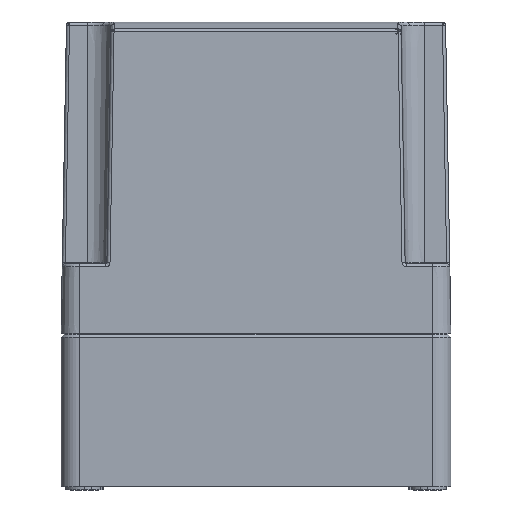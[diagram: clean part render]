
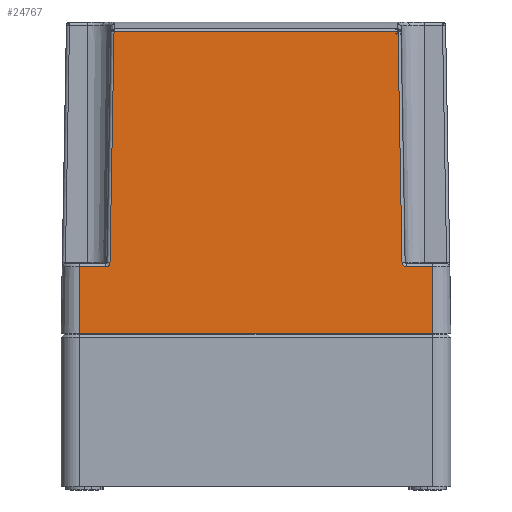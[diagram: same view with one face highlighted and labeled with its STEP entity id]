
A CAD part, left-side view. The second image highlights one B-rep face of the part: STEP entity #24767.
In plain terms, the highlighted planar face has unit normal (-1, 0, 0.018).
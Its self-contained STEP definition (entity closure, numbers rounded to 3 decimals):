
#454 = VECTOR ( 'NONE', #5387, 1000. ) ;
#1398 = CARTESIAN_POINT ( 'NONE',  ( -87.124, -47.924, 21.517 ) ) ;
#1662 = CARTESIAN_POINT ( 'NONE',  ( -87.112, -46.934, 22.227 ) ) ;
#2188 = VERTEX_POINT ( 'NONE', #36338 ) ;
#3864 = VERTEX_POINT ( 'NONE', #28158 ) ;
#5387 = DIRECTION ( 'NONE',  ( 0.017, 0., 1. ) ) ;
#7403 = CARTESIAN_POINT ( 'NONE',  ( -87.124, -48.095, 21.517 ) ) ;
#7424 = VERTEX_POINT ( 'NONE', #68740 ) ;
#7906 = CARTESIAN_POINT ( 'NONE',  ( -87.105, -46.798, 22.624 ) ) ;
#8076 = VECTOR ( 'NONE', #69906, 1000. ) ;
#8092 = ORIENTED_EDGE ( 'NONE', *, *, #55341, .T. ) ;
#9036 = CARTESIAN_POINT ( 'NONE',  ( -87.105, 46.798, 22.624 ) ) ;
#9073 = B_SPLINE_CURVE_WITH_KNOTS ( 'NONE', 3,
 ( #77781, #9036, #53036, #15283, #59276, #21640, #65544, #27960, #71821, #34304 ),
 .UNSPECIFIED., .F., .F.,
 ( 4, 2, 2, 2, 4 ),
 ( 0., 0.25, 0.5, 0.75, 1. ),
 .UNSPECIFIED. ) ;
#9119 = CARTESIAN_POINT ( 'NONE',  ( -87.102, -46.795, 22.795 ) ) ;
#9905 = VERTEX_POINT ( 'NONE', #37571 ) ;
#10601 = VECTOR ( 'NONE', #67234, 1000. ) ;
#15283 = CARTESIAN_POINT ( 'NONE',  ( -87.113, 46.968, 22.147 ) ) ;
#18457 = LINE ( 'NONE', #73230, #10601 ) ;
#18770 = ORIENTED_EDGE ( 'NONE', *, *, #55593, .T. ) ;
#19959 = VERTEX_POINT ( 'NONE', #63066 ) ;
#20093 = AXIS2_PLACEMENT_3D ( 'NONE', #76888, #78515, #41135 ) ;
#20435 = ORIENTED_EDGE ( 'NONE', *, *, #41371, .F. ) ;
#20956 = VECTOR ( 'NONE', #30054, 1000. ) ;
#21239 = CARTESIAN_POINT ( 'NONE',  ( -8797.577, -56.5, -499000. ) ) ;
#21640 = CARTESIAN_POINT ( 'NONE',  ( -87.12, 47.303, 21.772 ) ) ;
#22928 = VECTOR ( 'NONE', #77651, 1000. ) ;
#23047 = ORIENTED_EDGE ( 'NONE', *, *, #53450, .F. ) ;
#24767 = ADVANCED_FACE ( 'NONE', ( #52103 ), #34795, .T. ) ;
#24824 = CARTESIAN_POINT ( 'NONE',  ( -85.81, 50.527, 96.847 ) ) ;
#26472 = CARTESIAN_POINT ( 'NONE',  ( -87.124, -66.364, 21.517 ) ) ;
#26561 = CARTESIAN_POINT ( 'NONE',  ( -87.122, -47.443, 21.68 ) ) ;
#27960 = CARTESIAN_POINT ( 'NONE',  ( -87.124, 47.759, 21.55 ) ) ;
#28145 = CARTESIAN_POINT ( 'NONE',  ( -87.102, 46.795, 22.795 ) ) ;
#28158 = CARTESIAN_POINT ( 'NONE',  ( -85.81, 45.502, 96.847 ) ) ;
#28184 = VERTEX_POINT ( 'NONE', #28145 ) ;
#29206 = VECTOR ( 'NONE', #51816, 1000. ) ;
#29988 = ORIENTED_EDGE ( 'NONE', *, *, #54141, .T. ) ;
#30054 = DIRECTION ( 'NONE',  ( -0.017, 0.017, -1. ) ) ;
#32069 = VERTEX_POINT ( 'NONE', #38814 ) ;
#32739 = LINE ( 'NONE', #24824, #80689 ) ;
#32897 = CARTESIAN_POINT ( 'NONE',  ( -87.117, -47.123, 21.949 ) ) ;
#33780 = LINE ( 'NONE', #80380, #454 ) ;
#34304 = CARTESIAN_POINT ( 'NONE',  ( -87.124, 48.095, 21.517 ) ) ;
#34795 = PLANE ( 'NONE',  #20093 ) ;
#36338 = CARTESIAN_POINT ( 'NONE',  ( -87.124, -56.5, 21.517 ) ) ;
#37571 = CARTESIAN_POINT ( 'NONE',  ( -85.81, -45.502, 96.847 ) ) ;
#38701 = CARTESIAN_POINT ( 'NONE',  ( -87.5, -56.5, 0. ) ) ;
#38709 = CARTESIAN_POINT ( 'NONE',  ( -87.124, -66.364, 21.517 ) ) ;
#38724 = CARTESIAN_POINT ( 'NONE',  ( -87.102, -46.795, 22.795 ) ) ;
#38814 = CARTESIAN_POINT ( 'NONE',  ( -87.124, 48.095, 21.517 ) ) ;
#39229 = CARTESIAN_POINT ( 'NONE',  ( -87.113, -46.975, 22.152 ) ) ;
#39533 = LINE ( 'NONE', #38709, #8076 ) ;
#41135 = DIRECTION ( 'NONE',  ( 0.017, 0., 1. ) ) ;
#41371 = EDGE_CURVE ( 'NONE', #73039, #7424, #18457, .T. ) ;
#42773 = CARTESIAN_POINT ( 'NONE',  ( -85.81, 45.502, 96.847 ) ) ;
#44514 = ORIENTED_EDGE ( 'NONE', *, *, #52452, .T. ) ;
#45307 = CARTESIAN_POINT ( 'NONE',  ( -87.124, -48.095, 21.517 ) ) ;
#45475 = VECTOR ( 'NONE', #67236, 1000. ) ;
#45581 = CARTESIAN_POINT ( 'NONE',  ( -87.108, -46.833, 22.461 ) ) ;
#45610 = ORIENTED_EDGE ( 'NONE', *, *, #73679, .F. ) ;
#45968 = LINE ( 'NONE', #26472, #29206 ) ;
#46389 = VERTEX_POINT ( 'NONE', #38724 ) ;
#46458 = VERTEX_POINT ( 'NONE', #7403 ) ;
#48742 = ORIENTED_EDGE ( 'NONE', *, *, #52471, .F. ) ;
#51816 = DIRECTION ( 'NONE',  ( 0., 1., 0. ) ) ;
#51901 = CARTESIAN_POINT ( 'NONE',  ( -87.102, -46.795, 22.795 ) ) ;
#52103 = FACE_OUTER_BOUND ( 'NONE', #66307, .T. ) ;
#52452 = EDGE_CURVE ( 'NONE', #3864, #28184, #52508, .T. ) ;
#52471 = EDGE_CURVE ( 'NONE', #7424, #19959, #33780, .T. ) ;
#52508 = LINE ( 'NONE', #42773, #20956 ) ;
#53036 = CARTESIAN_POINT ( 'NONE',  ( -87.108, 46.832, 22.463 ) ) ;
#53306 = EDGE_CURVE ( 'NONE', #28184, #32069, #9073, .T. ) ;
#53450 = EDGE_CURVE ( 'NONE', #3864, #9905, #32739, .T. ) ;
#54141 = EDGE_CURVE ( 'NONE', #46458, #46389, #64980, .T. ) ;
#55341 = EDGE_CURVE ( 'NONE', #46389, #9905, #62123, .T. ) ;
#55593 = EDGE_CURVE ( 'NONE', #32069, #19959, #39533, .T. ) ;
#55791 = ORIENTED_EDGE ( 'NONE', *, *, #64125, .T. ) ;
#56146 = DIRECTION ( 'NONE',  ( 0., -1., 0. ) ) ;
#58707 = ORIENTED_EDGE ( 'NONE', *, *, #53306, .T. ) ;
#59276 = CARTESIAN_POINT ( 'NONE',  ( -87.116, 47.063, 22.008 ) ) ;
#62123 = LINE ( 'NONE', #9119, #45475 ) ;
#63066 = CARTESIAN_POINT ( 'NONE',  ( -87.124, 56.5, 21.517 ) ) ;
#64125 = EDGE_CURVE ( 'NONE', #2188, #46458, #45968, .T. ) ;
#64148 = CARTESIAN_POINT ( 'NONE',  ( -87.124, -47.759, 21.55 ) ) ;
#64980 = B_SPLINE_CURVE_WITH_KNOTS ( 'NONE', 3,
 ( #45307, #1398, #64148, #26561, #70428, #32897, #76652, #39229, #1662, #45581, #7906, #51901 ),
 .UNSPECIFIED., .F., .F.,
 ( 4, 2, 2, 2, 2, 4 ),
 ( 0., 0.25, 0.5, 0.625, 0.75, 1. ),
 .UNSPECIFIED. ) ;
#65544 = CARTESIAN_POINT ( 'NONE',  ( -87.122, 47.443, 21.68 ) ) ;
#66307 = EDGE_LOOP ( 'NONE', ( #29988, #8092, #23047, #44514, #58707, #18770, #48742, #20435, #45610, #55791 ) ) ;
#67234 = DIRECTION ( 'NONE',  ( 0., 1., 0. ) ) ;
#67236 = DIRECTION ( 'NONE',  ( 0.017, 0.017, 1. ) ) ;
#68740 = CARTESIAN_POINT ( 'NONE',  ( -87.5, 56.5, 0. ) ) ;
#69906 = DIRECTION ( 'NONE',  ( 0., 1., 0. ) ) ;
#70428 = CARTESIAN_POINT ( 'NONE',  ( -87.12, -47.304, 21.772 ) ) ;
#71821 = CARTESIAN_POINT ( 'NONE',  ( -87.124, 47.924, 21.517 ) ) ;
#73039 = VERTEX_POINT ( 'NONE', #38701 ) ;
#73230 = CARTESIAN_POINT ( 'NONE',  ( -87.5, -62.5, 0. ) ) ;
#73679 = EDGE_CURVE ( 'NONE', #2188, #73039, #74890, .T. ) ;
#74890 = LINE ( 'NONE', #21239, #22928 ) ;
#76652 = CARTESIAN_POINT ( 'NONE',  ( -87.116, -47.07, 22.013 ) ) ;
#76888 = CARTESIAN_POINT ( 'NONE',  ( -87.5, -66.364, 0. ) ) ;
#77651 = DIRECTION ( 'NONE',  ( -0.017, 0., -1. ) ) ;
#77781 = CARTESIAN_POINT ( 'NONE',  ( -87.102, 46.795, 22.795 ) ) ;
#78515 = DIRECTION ( 'NONE',  ( -1., 0., 0.017 ) ) ;
#80380 = CARTESIAN_POINT ( 'NONE',  ( -8797.577, 56.5, -499000. ) ) ;
#80689 = VECTOR ( 'NONE', #56146, 1000. ) ;
